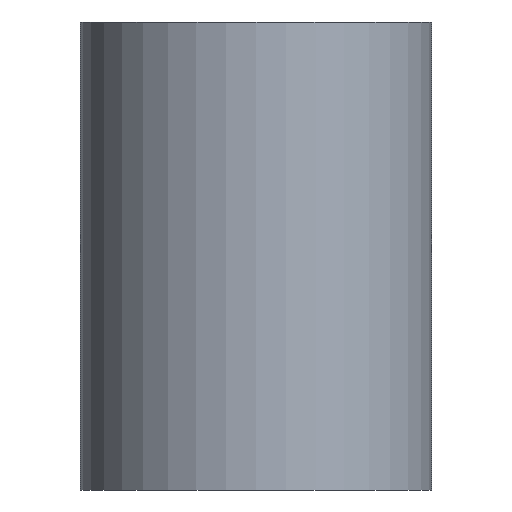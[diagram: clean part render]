
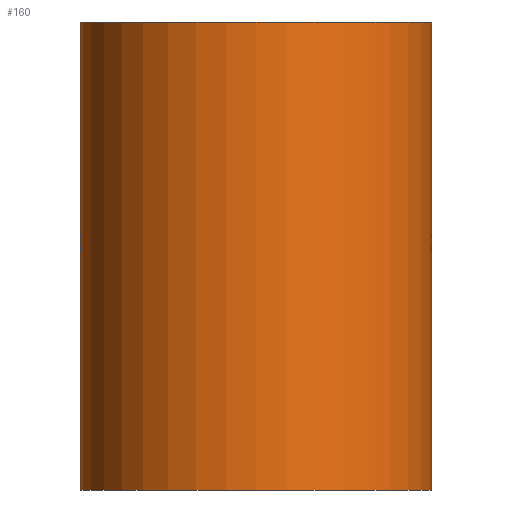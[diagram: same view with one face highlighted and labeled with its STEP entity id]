
A CAD part, front view. The second image highlights one B-rep face of the part: STEP entity #160.
In plain terms, the highlighted cylindrical face has radius 45 mm (diameter 90 mm), a partial arc.
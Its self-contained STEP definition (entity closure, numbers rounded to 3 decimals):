
#106=CYLINDRICAL_SURFACE('',#389,45.);
#116=FACE_OUTER_BOUND('',#196,.T.);
#129=LINE('',#544,#143);
#130=LINE('',#545,#144);
#143=VECTOR('',#447,1.);
#144=VECTOR('',#448,1.);
#160=ADVANCED_FACE('',(#116),#106,.T.);
#196=EDGE_LOOP('',(#233,#234,#235,#236));
#233=ORIENTED_EDGE('',*,*,#323,.F.);
#234=ORIENTED_EDGE('',*,*,#322,.T.);
#235=ORIENTED_EDGE('',*,*,#324,.T.);
#236=ORIENTED_EDGE('',*,*,#313,.F.);
#289=VERTEX_POINT('',#523);
#290=VERTEX_POINT('',#524);
#295=VERTEX_POINT('',#540);
#296=VERTEX_POINT('',#541);
#313=EDGE_CURVE('',#289,#290,#351,.T.);
#322=EDGE_CURVE('',#296,#295,#358,.T.);
#323=EDGE_CURVE('',#296,#289,#129,.T.);
#324=EDGE_CURVE('',#295,#290,#130,.T.);
#351=CIRCLE('',#376,45.);
#358=CIRCLE('',#386,45.);
#376=AXIS2_PLACEMENT_3D('',#522,#421,#422);
#386=AXIS2_PLACEMENT_3D('',#542,#443,#444);
#389=AXIS2_PLACEMENT_3D('',#547,#451,#452);
#421=DIRECTION('',(0.,0.,1.));
#422=DIRECTION('',(0.,1.,0.));
#443=DIRECTION('',(0.,0.,1.));
#444=DIRECTION('',(0.,1.,0.));
#447=DIRECTION('',(0.,0.,1.));
#448=DIRECTION('',(0.,0.,1.));
#451=DIRECTION('',(0.,0.,1.));
#452=DIRECTION('',(0.,-1.,0.));
#522=CARTESIAN_POINT('',(0.,0.,120.));
#523=CARTESIAN_POINT('',(-45.,0.,120.));
#524=CARTESIAN_POINT('',(45.,0.,120.));
#540=CARTESIAN_POINT('',(45.,0.,0.));
#541=CARTESIAN_POINT('',(-45.,0.,0.));
#542=CARTESIAN_POINT('',(0.,0.,0.));
#544=CARTESIAN_POINT('',(-45.,0.,120.));
#545=CARTESIAN_POINT('',(45.,0.,120.));
#547=CARTESIAN_POINT('',(0.,0.,0.));
